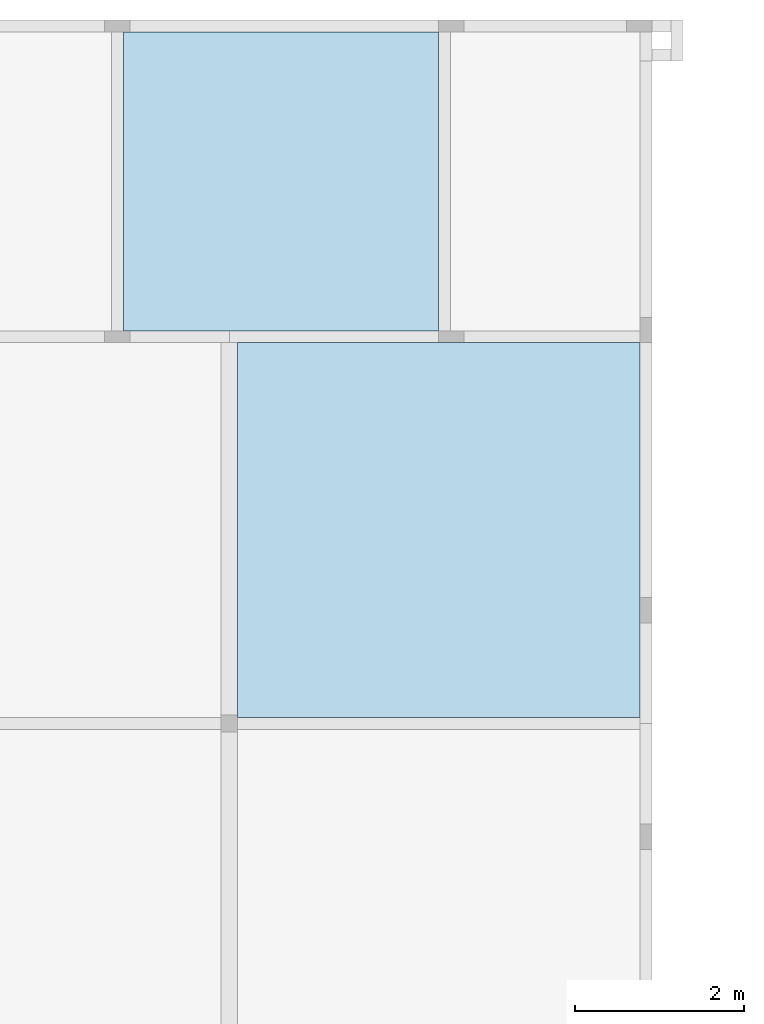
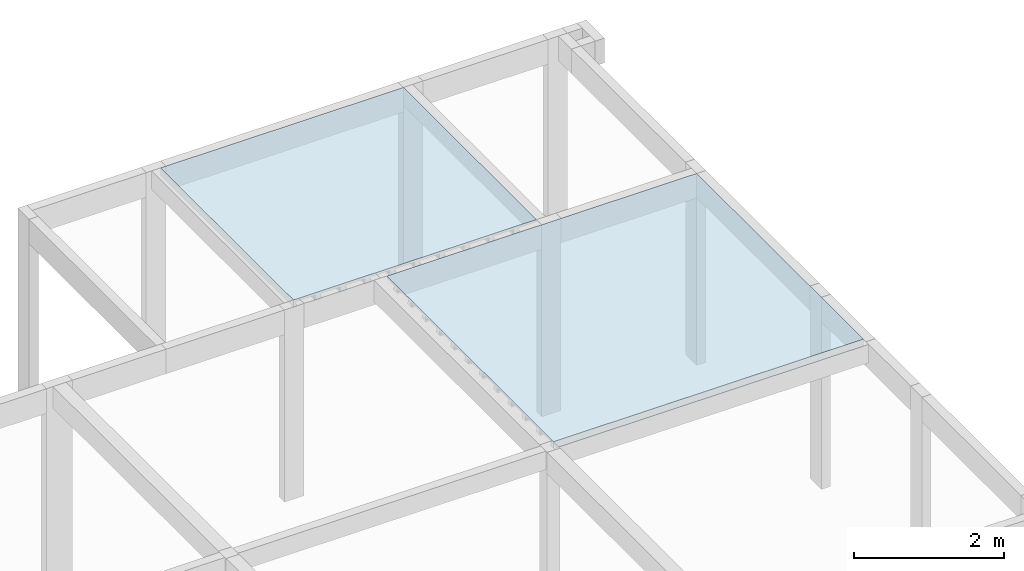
# One storey, part 6 of 7: 2 slabs.
"""IFC4 building model written with IfcOpenShell, lengths in centimetres."""

import ifcopenshell
import ifcopenshell.guid

model = None  # the IFC model being written
_history = None  # IfcOwnerHistory: only IFC2X3 demands one
_inside = {}  # id of a spatial element -> (the spatial element, [elements in it])
_under = {}  # id of a project, library or spatial element -> (it, [spatial elements below it])
_declared = {}  # id of a project -> (the project, [libraries it declares])
_typed = {}  # id of a type object -> (the type object, [elements of that type])
_made_of = {}  # id of a material, layer set ... -> (it, [elements and type objects made of it])


def new_model(schema):
    """Start an empty IFC model of exactly this schema.

    Asked for "IFC4X3", IfcOpenShell would pick the latest addendum, in which some entities
    have other attributes; the version numbers below select the first issue.
    IFC2X3 requires an IfcOwnerHistory on every rooted entity: one is made here for all.
    """
    global model, _history
    if schema == "IFC4X3":
        model = ifcopenshell.file(schema_version=(4, 3, 0, 0))
    else:
        model = ifcopenshell.file(schema=schema)
    _inside.clear()
    _under.clear()
    _declared.clear()
    _typed.clear()
    _made_of.clear()
    _history = None
    if model.schema == "IFC2X3":
        org = make("IfcOrganization", Name="unknown")
        user = make(
            "IfcPersonAndOrganization",
            ThePerson=make("IfcPerson", FamilyName="unknown"),
            TheOrganization=org,
        )
        app = make(
            "IfcApplication",
            ApplicationDeveloper=org,
            Version="unknown",
            ApplicationFullName="unknown",
            ApplicationIdentifier="unknown",
        )
        _history = make(
            "IfcOwnerHistory",
            OwningUser=user,
            OwningApplication=app,
            ChangeAction="ADDED",
            CreationDate=0,
        )
    return model


def make(cls, **values):
    """One entity of the class cls with the attributes given. An attribute that is None is left unset."""
    return model.create_entity(
        cls, **{name: value for name, value in values.items() if value is not None}
    )


def rooted(cls, **values):
    """An entity with a GlobalId (a new one), such as an element, a storey or a relation."""
    return make(cls, GlobalId=ifcopenshell.guid.new(), OwnerHistory=_history, **values)


def si_unit(unit_type, name, prefix=None):
    """IfcSIUnit, for example si_unit("LENGTHUNIT", "METRE", prefix="MILLI")."""
    return make("IfcSIUnit", UnitType=unit_type, Prefix=prefix, Name=name)


def derived_unit(unit_type, elements):
    """IfcDerivedUnit: a product of units, each with its exponent."""
    return make(
        "IfcDerivedUnit",
        Elements=[
            make("IfcDerivedUnitElement", Unit=unit, Exponent=power)
            for unit, power in elements
        ],
        UnitType=unit_type,
    )


def assignment(units):
    """IfcUnitAssignment: the units of a project."""
    return None if units is None else make("IfcUnitAssignment", Units=units)


def point(xyz):
    """IfcCartesianPoint."""
    return None if xyz is None else make("IfcCartesianPoint", Coordinates=xyz)


def direction(xyz):
    """IfcDirection."""
    return None if xyz is None else make("IfcDirection", DirectionRatios=xyz)


def frame(location, z_axis=None, x_axis=None):
    """IfcAxis2Placement3D, a coordinate frame: its origin and axes. An axis left out is left unset."""
    return make(
        "IfcAxis2Placement3D",
        Location=point(location),
        Axis=direction(z_axis),
        RefDirection=direction(x_axis),
    )


def origin_with_axes():
    """The frame at (0, 0, 0) with the z axis (0, 0, 1) and the x axis (1, 0, 0) written out."""
    return frame((0.0, 0.0, 0.0), z_axis=(0.0, 0.0, 1.0), x_axis=(1.0, 0.0, 0.0))


def place(relative_to, where):
    """IfcLocalPlacement: puts the frame where relative to a parent placement (None: the world)."""
    return make(
        "IfcLocalPlacement", PlacementRelTo=relative_to, RelativePlacement=where
    )


def context(
    kind, dimensions, precision=None, world=None, true_north=None, identifier=None
):
    """IfcGeometricRepresentationContext, for example the 3D "Model" context."""
    return make(
        "IfcGeometricRepresentationContext",
        ContextIdentifier=identifier,
        ContextType=kind,
        CoordinateSpaceDimension=dimensions,
        Precision=precision,
        WorldCoordinateSystem=world,
        TrueNorth=true_north,
    )


def project(units=None, contexts=None):
    """IfcProject with its units and contexts."""
    return rooted(
        "IfcProject",
        Name="project",
        RepresentationContexts=contexts,
        UnitsInContext=assignment(units),
    )


def spatial(cls, under=None, at=None, **own):
    """A site, building, storey or space (cls), placed at a placement, below another one or the project."""
    s = rooted(cls, ObjectPlacement=at, **own)
    if under is not None:
        _under.setdefault(under.id(), (under, []))[1].append(s)
    return s


def polyline(points):
    """IfcPolyline through the points."""
    return make("IfcPolyline", Points=[point(p) for p in points])


def outline(outer, holes=None, kind="AREA"):
    """IfcArbitraryClosedProfileDef: a profile drawn as a closed curve; with holes, ...WithVoids."""
    if holes is None:
        return make("IfcArbitraryClosedProfileDef", ProfileType=kind, OuterCurve=outer)
    return make(
        "IfcArbitraryProfileDefWithVoids",
        ProfileType=kind,
        OuterCurve=outer,
        InnerCurves=holes,
    )


def extrude(swept, where, along, depth):
    """IfcExtrudedAreaSolid: the profile swept, set in the frame where, extruded along a direction by depth."""
    return make(
        "IfcExtrudedAreaSolid",
        SweptArea=swept,
        Position=where,
        ExtrudedDirection=direction(along),
        Depth=depth,
    )


def faces_of(points, faces, orient=None, outer=None):
    """IfcFace entities. A face is a list of loops; a loop is a list of indices into points, from 0.

    orient and outer hold one flag for each loop. By default every Orientation is true, the
    first loop of a face is its IfcFaceOuterBound and the others are IfcFaceBound.
    """
    made = []
    for i, loops in enumerate(faces):
        bounds = []
        for j, loop in enumerate(loops):
            is_outer = j == 0 if outer is None else outer[i][j]
            bounds.append(
                make(
                    "IfcFaceOuterBound" if is_outer else "IfcFaceBound",
                    Bound=make("IfcPolyLoop", Polygon=[points[k] for k in loop]),
                    Orientation=True if orient is None else orient[i][j],
                )
            )
        made.append(make("IfcFace", Bounds=bounds))
    return made


def faceted_brep(points, faces, orient=None, outer=None, voids=None):
    """IfcFacetedBrep: a solid bounded by flat faces; with voids (closed shells), ...WithVoids."""
    shared = [point(p) for p in points]
    hull = make("IfcClosedShell", CfsFaces=faces_of(shared, faces, orient, outer))
    if voids is None:
        return make("IfcFacetedBrep", Outer=hull)
    return make(
        "IfcFacetedBrepWithVoids",
        Outer=hull,
        Voids=[
            make(cls, CfsFaces=faces_of(shared, fs, o, b)) for cls, fs, o, b in voids
        ],
    )


def shape(context_of_items, identifier, shape_type, items):
    """IfcShapeRepresentation: the items that make up one representation, for example the "Body"."""
    return make(
        "IfcShapeRepresentation",
        ContextOfItems=context_of_items,
        RepresentationIdentifier=identifier,
        RepresentationType=shape_type,
        Items=items,
    )


def material(Name=None, Category=None):
    """IfcMaterial."""
    return make("IfcMaterial", Name=Name, Category=Category)


def made_of(thing, what):
    """Note that an element or type object is made of a material, layer set ...; save() writes the relation."""
    if what is not None:
        _made_of.setdefault(what.id(), (what, []))[1].append(thing)
    return thing


def element(
    cls,
    number,
    at=None,
    inside=None,
    cuts=None,
    type_object=None,
    material=None,
    context=None,
    identifier="Body",
    shape_type=None,
    held_by="IfcProductDefinitionShape",
    body=None,
    shapes=None,
    **own,
):
    """One element of the class cls, such as IfcWall. Its Tag is "e" and its number.

    at: its placement. inside: the storey or other place that contains it. cuts: it is an
    opening in that element (IfcRelVoidsElement). A single representation is given by context,
    identifier, shape_type and body (its items); several are given by shapes. held_by: the class
    of the entity that holds the representations. save() writes the other relations.
    """
    e = rooted(cls, Tag="e%d" % number, ObjectPlacement=at, **own)
    if body is not None:
        shapes = [shape(context, identifier, shape_type, body)]
    if shapes is not None:
        e.Representation = make(held_by, Representations=shapes)
    if inside is not None:
        _inside.setdefault(inside.id(), (inside, []))[1].append(e)
    if cuts is not None:
        rooted(
            "IfcRelVoidsElement", RelatingBuildingElement=cuts, RelatedOpeningElement=e
        )
    if type_object is not None:
        _typed.setdefault(type_object.id(), (type_object, []))[1].append(e)
    return made_of(e, material)


def aggregate(whole, parts):
    """IfcRelAggregates: a whole, such as a stair, and the parts it consists of."""
    return rooted("IfcRelAggregates", RelatingObject=whole, RelatedObjects=parts)


def save(model, path):
    """Write the relations noted so far, then the file.

    IfcRelAggregates (storeys below a building ...), IfcRelContainedInSpatialStructure (elements
    in a storey), IfcRelDefinesByType, IfcRelAssociatesMaterial and IfcRelDeclares: one each for
    every whole, place, type object, material and project.
    """
    for whole, parts in _under.values():
        aggregate(whole, parts)
    for where, things in _inside.values():
        rooted(
            "IfcRelContainedInSpatialStructure",
            RelatedElements=things,
            RelatingStructure=where,
        )
    for kind, things in _typed.values():
        rooted("IfcRelDefinesByType", RelatedObjects=things, RelatingType=kind)
    for what, things in _made_of.values():
        rooted("IfcRelAssociatesMaterial", RelatedObjects=things, RelatingMaterial=what)
    for by, libraries in _declared.values():
        rooted("IfcRelDeclares", RelatingContext=by, RelatedDefinitions=libraries)
    model.write(path)


model = new_model("IFC4")

# Units and contexts
model_context = context("Model", 3, precision=1e-05, world=origin_with_axes(), identifier="Body")
ifc_project = project(units=[si_unit("LENGTHUNIT", "METRE", prefix="CENTI"), si_unit("VOLUMEUNIT", "CUBIC_METRE"), si_unit("AREAUNIT", "SQUARE_METRE"), si_unit("POWERUNIT", "WATT"), si_unit("LUMINOUSFLUXUNIT", "LUMEN"), si_unit("ELECTRICCURRENTUNIT", "AMPERE"), si_unit("PRESSUREUNIT", "PASCAL", prefix="KILO"), si_unit("MASSUNIT", "GRAM", prefix="KILO"), si_unit("PLANEANGLEUNIT", "RADIAN"), derived_unit("VOLUMETRICFLOWRATEUNIT", [(si_unit("LENGTHUNIT", "METRE"), 3), (si_unit("TIMEUNIT", "SECOND"), -1)])], contexts=[model_context])

# Site, building, storey
site_placement = place(None, origin_with_axes())
site = spatial("IfcSite", under=ifc_project, at=site_placement)
building_placement = place(site_placement, frame((0.0, 0.0, 24.0)))
building = spatial("IfcBuilding", under=site, at=building_placement)
storey_placement = place(building_placement, frame((0.0, 0.0, 312.0), z_axis=(0.0, 0.0, 1.0), x_axis=(1.0, 0.0, 0.0)))
storey = spatial("IfcBuildingStorey", under=building, at=storey_placement, Name="RESPALDO", CompositionType="ELEMENT", Elevation=336.0)

# Slabs
ifc_material = material(Name="Concreto")
slab_1_placement = place(storey_placement, frame((1072.8, 1379.26, 0.0), z_axis=(0.0, 0.0, 1.0), x_axis=(1.0, 0.0, 0.0)))
element("IfcSlab", 1, at=slab_1_placement, inside=storey, material=ifc_material, Name="L2", PredefinedType="FLOOR", context=model_context, shape_type="SolidModel", body=[
    extrude(outline(polyline([(186.42, 176.74), (-186.42, 176.74), (-186.419, -176.74), (186.42, -176.74), (186.42, 176.74), (186.42, 176.74)])), frame((0.0, 0.0, -4.0), z_axis=(0.0, 0.0, 1.0), x_axis=(1.0, 0.0, 0.0)), (0.0, 0.0, 1.0), 4.0),
    faceted_brep([(-186.4195, -176.74, -12.0), (-186.4195, 176.74, -12.0), (-182.42, 176.74, -12.0), (-182.42, -176.74, -12.0), (-182.42, -176.74, -4.0), (-182.42, 176.74, -4.0), (-186.4195, 176.74, -4.0), (-186.4195, -176.74, -4.0)], [[[0, 1, 2, 3]], [[4, 5, 6, 7]], [[4, 3, 5]], [[3, 2, 5]], [[5, 2, 6]], [[2, 1, 6]], [[6, 1, 7]], [[1, 0, 7]], [[7, 0, 4]], [[0, 3, 4]]]),
    faceted_brep([(-182.42, -176.74, -12.0), (-182.42, 176.74, -12.0), (-180.92, 176.74, -12.0), (-180.92, -176.74, -12.0), (-180.92, -176.74, -9.0), (-180.92, 176.74, -9.0), (-182.42, 176.74, -9.0), (-182.42, -176.74, -9.0)], [[[0, 1, 2, 3]], [[4, 5, 6, 7]], [[4, 3, 5]], [[3, 2, 5]], [[5, 2, 6]], [[2, 1, 6]], [[6, 1, 7]], [[1, 0, 7]], [[7, 0, 4]], [[0, 3, 4]]]),
    faceted_brep([(-152.42, -176.74, -12.0), (-152.42, 176.74, -12.0), (-144.42, 176.74, -12.0), (-144.42, -176.74, -12.0), (-144.42, -176.74, -4.0), (-144.42, 176.74, -4.0), (-152.42, 176.74, -4.0), (-152.42, -176.74, -4.0)], [[[0, 1, 2, 3]], [[4, 5, 6, 7]], [[4, 3, 5]], [[3, 2, 5]], [[5, 2, 6]], [[2, 1, 6]], [[6, 1, 7]], [[1, 0, 7]], [[7, 0, 4]], [[0, 3, 4]]]),
    faceted_brep([(-153.92, -176.74, -12.0), (-153.92, 176.74, -12.0), (-152.42, 176.74, -12.0), (-152.42, -176.74, -12.0), (-152.42, -176.74, -9.0), (-152.42, 176.74, -9.0), (-153.92, 176.74, -9.0), (-153.92, -176.74, -9.0)], [[[0, 1, 2, 3]], [[4, 5, 6, 7]], [[4, 3, 5]], [[3, 2, 5]], [[5, 2, 6]], [[2, 1, 6]], [[6, 1, 7]], [[1, 0, 7]], [[7, 0, 4]], [[0, 3, 4]]]),
    faceted_brep([(-144.42, -176.74, -12.0), (-144.42, 176.74, -12.0), (-142.92, 176.74, -12.0), (-142.92, -176.74, -12.0), (-142.92, -176.74, -9.0), (-142.92, 176.74, -9.0), (-144.42, 176.74, -9.0), (-144.42, -176.74, -9.0)], [[[0, 1, 2, 3]], [[4, 5, 6, 7]], [[4, 3, 5]], [[3, 2, 5]], [[5, 2, 6]], [[2, 1, 6]], [[6, 1, 7]], [[1, 0, 7]], [[7, 0, 4]], [[0, 3, 4]]]),
    faceted_brep([(-114.42, -176.74, -12.0), (-114.42, 176.74, -12.0), (-106.42, 176.74, -12.0), (-106.42, -176.74, -12.0), (-106.42, -176.74, -4.0), (-106.42, 176.74, -4.0), (-114.42, 176.74, -4.0), (-114.42, -176.74, -4.0)], [[[0, 1, 2, 3]], [[4, 5, 6, 7]], [[4, 3, 5]], [[3, 2, 5]], [[5, 2, 6]], [[2, 1, 6]], [[6, 1, 7]], [[1, 0, 7]], [[7, 0, 4]], [[0, 3, 4]]]),
    faceted_brep([(-115.92, -176.74, -12.0), (-115.92, 176.74, -12.0), (-114.42, 176.74, -12.0), (-114.42, -176.74, -12.0), (-114.42, -176.74, -9.0), (-114.42, 176.74, -9.0), (-115.92, 176.74, -9.0), (-115.92, -176.74, -9.0)], [[[0, 1, 2, 3]], [[4, 5, 6, 7]], [[4, 3, 5]], [[3, 2, 5]], [[5, 2, 6]], [[2, 1, 6]], [[6, 1, 7]], [[1, 0, 7]], [[7, 0, 4]], [[0, 3, 4]]]),
    faceted_brep([(-106.42, -176.74, -12.0), (-106.42, 176.74, -12.0), (-104.92, 176.74, -12.0), (-104.92, -176.74, -12.0), (-104.92, -176.74, -9.0), (-104.92, 176.74, -9.0), (-106.42, 176.74, -9.0), (-106.42, -176.74, -9.0)], [[[0, 1, 2, 3]], [[4, 5, 6, 7]], [[4, 3, 5]], [[3, 2, 5]], [[5, 2, 6]], [[2, 1, 6]], [[6, 1, 7]], [[1, 0, 7]], [[7, 0, 4]], [[0, 3, 4]]]),
    faceted_brep([(-76.42, -176.74, -12.0), (-76.42, 176.74, -12.0), (-68.42, 176.74, -12.0), (-68.42, -176.74, -12.0), (-68.42, -176.74, -4.0), (-68.42, 176.74, -4.0), (-76.42, 176.74, -4.0), (-76.42, -176.74, -4.0)], [[[0, 1, 2, 3]], [[4, 5, 6, 7]], [[4, 3, 5]], [[3, 2, 5]], [[5, 2, 6]], [[2, 1, 6]], [[6, 1, 7]], [[1, 0, 7]], [[7, 0, 4]], [[0, 3, 4]]]),
    faceted_brep([(-77.92, -176.74, -12.0), (-77.92, 176.74, -12.0), (-76.42, 176.74, -12.0), (-76.42, -176.74, -12.0), (-76.42, -176.74, -9.0), (-76.42, 176.74, -9.0), (-77.92, 176.74, -9.0), (-77.92, -176.74, -9.0)], [[[0, 1, 2, 3]], [[4, 5, 6, 7]], [[4, 3, 5]], [[3, 2, 5]], [[5, 2, 6]], [[2, 1, 6]], [[6, 1, 7]], [[1, 0, 7]], [[7, 0, 4]], [[0, 3, 4]]]),
    faceted_brep([(-68.42, -176.74, -12.0), (-68.42, 176.74, -12.0), (-66.92, 176.74, -12.0), (-66.92, -176.74, -12.0), (-66.92, -176.74, -9.0), (-66.92, 176.74, -9.0), (-68.42, 176.74, -9.0), (-68.42, -176.74, -9.0)], [[[0, 1, 2, 3]], [[4, 5, 6, 7]], [[4, 3, 5]], [[3, 2, 5]], [[5, 2, 6]], [[2, 1, 6]], [[6, 1, 7]], [[1, 0, 7]], [[7, 0, 4]], [[0, 3, 4]]]),
    faceted_brep([(-38.42, -176.74, -12.0), (-38.42, 176.74, -12.0), (-30.42, 176.74, -12.0), (-30.42, -176.74, -12.0), (-30.42, -176.74, -4.0), (-30.42, 176.74, -4.0), (-38.42, 176.74, -4.0), (-38.42, -176.74, -4.0)], [[[0, 1, 2, 3]], [[4, 5, 6, 7]], [[4, 3, 5]], [[3, 2, 5]], [[5, 2, 6]], [[2, 1, 6]], [[6, 1, 7]], [[1, 0, 7]], [[7, 0, 4]], [[0, 3, 4]]]),
    faceted_brep([(-39.92, -176.74, -12.0), (-39.92, 176.74, -12.0), (-38.42, 176.74, -12.0), (-38.42, -176.74, -12.0), (-38.42, -176.74, -9.0), (-38.42, 176.74, -9.0), (-39.92, 176.74, -9.0), (-39.92, -176.74, -9.0)], [[[0, 1, 2, 3]], [[4, 5, 6, 7]], [[4, 3, 5]], [[3, 2, 5]], [[5, 2, 6]], [[2, 1, 6]], [[6, 1, 7]], [[1, 0, 7]], [[7, 0, 4]], [[0, 3, 4]]]),
    faceted_brep([(-30.42, -176.74, -12.0), (-30.42, 176.74, -12.0), (-28.92, 176.74, -12.0), (-28.92, -176.74, -12.0), (-28.92, -176.74, -9.0), (-28.92, 176.74, -9.0), (-30.42, 176.74, -9.0), (-30.42, -176.74, -9.0)], [[[0, 1, 2, 3]], [[4, 5, 6, 7]], [[4, 3, 5]], [[3, 2, 5]], [[5, 2, 6]], [[2, 1, 6]], [[6, 1, 7]], [[1, 0, 7]], [[7, 0, 4]], [[0, 3, 4]]]),
    faceted_brep([(-0.42, -176.74, -12.0), (-0.42, 176.74, -12.0), (7.58, 176.74, -12.0), (7.58, -176.74, -12.0), (7.58, -176.74, -4.0), (7.58, 176.74, -4.0), (-0.42, 176.74, -4.0), (-0.42, -176.74, -4.0)], [[[0, 1, 2, 3]], [[4, 5, 6, 7]], [[4, 3, 5]], [[3, 2, 5]], [[5, 2, 6]], [[2, 1, 6]], [[6, 1, 7]], [[1, 0, 7]], [[7, 0, 4]], [[0, 3, 4]]]),
    faceted_brep([(-1.92, -176.74, -12.0), (-1.92, 176.74, -12.0), (-0.42, 176.74, -12.0), (-0.42, -176.74, -12.0), (-0.42, -176.74, -9.0), (-0.42, 176.74, -9.0), (-1.92, 176.74, -9.0), (-1.92, -176.74, -9.0)], [[[0, 1, 2, 3]], [[4, 5, 6, 7]], [[4, 3, 5]], [[3, 2, 5]], [[5, 2, 6]], [[2, 1, 6]], [[6, 1, 7]], [[1, 0, 7]], [[7, 0, 4]], [[0, 3, 4]]]),
    faceted_brep([(7.58, -176.74, -12.0), (7.58, 176.74, -12.0), (9.08, 176.74, -12.0), (9.08, -176.74, -12.0), (9.08, -176.74, -9.0), (9.08, 176.74, -9.0), (7.58, 176.74, -9.0), (7.58, -176.74, -9.0)], [[[0, 1, 2, 3]], [[4, 5, 6, 7]], [[4, 3, 5]], [[3, 2, 5]], [[5, 2, 6]], [[2, 1, 6]], [[6, 1, 7]], [[1, 0, 7]], [[7, 0, 4]], [[0, 3, 4]]]),
    faceted_brep([(37.58, -176.74, -12.0), (37.58, 176.74, -12.0), (45.58, 176.74, -12.0), (45.58, -176.74, -12.0), (45.58, -176.74, -4.0), (45.58, 176.74, -4.0), (37.58, 176.74, -4.0), (37.58, -176.74, -4.0)], [[[0, 1, 2, 3]], [[4, 5, 6, 7]], [[4, 3, 5]], [[3, 2, 5]], [[5, 2, 6]], [[2, 1, 6]], [[6, 1, 7]], [[1, 0, 7]], [[7, 0, 4]], [[0, 3, 4]]]),
    faceted_brep([(36.08, -176.74, -12.0), (36.08, 176.74, -12.0), (37.58, 176.74, -12.0), (37.58, -176.74, -12.0), (37.58, -176.74, -9.0), (37.58, 176.74, -9.0), (36.08, 176.74, -9.0), (36.08, -176.74, -9.0)], [[[0, 1, 2, 3]], [[4, 5, 6, 7]], [[4, 3, 5]], [[3, 2, 5]], [[5, 2, 6]], [[2, 1, 6]], [[6, 1, 7]], [[1, 0, 7]], [[7, 0, 4]], [[0, 3, 4]]]),
    faceted_brep([(45.58, -176.74, -12.0), (45.58, 176.74, -12.0), (47.08, 176.74, -12.0), (47.08, -176.74, -12.0), (47.08, -176.74, -9.0), (47.08, 176.74, -9.0), (45.58, 176.74, -9.0), (45.58, -176.74, -9.0)], [[[0, 1, 2, 3]], [[4, 5, 6, 7]], [[4, 3, 5]], [[3, 2, 5]], [[5, 2, 6]], [[2, 1, 6]], [[6, 1, 7]], [[1, 0, 7]], [[7, 0, 4]], [[0, 3, 4]]]),
    faceted_brep([(75.58, -176.74, -12.0), (75.58, 176.74, -12.0), (83.58, 176.74, -12.0), (83.58, -176.74, -12.0), (83.58, -176.74, -4.0), (83.58, 176.74, -4.0), (75.58, 176.74, -4.0), (75.58, -176.74, -4.0)], [[[0, 1, 2, 3]], [[4, 5, 6, 7]], [[4, 3, 5]], [[3, 2, 5]], [[5, 2, 6]], [[2, 1, 6]], [[6, 1, 7]], [[1, 0, 7]], [[7, 0, 4]], [[0, 3, 4]]]),
    faceted_brep([(74.08, -176.74, -12.0), (74.08, 176.74, -12.0), (75.58, 176.74, -12.0), (75.58, -176.74, -12.0), (75.58, -176.74, -9.0), (75.58, 176.74, -9.0), (74.08, 176.74, -9.0), (74.08, -176.74, -9.0)], [[[0, 1, 2, 3]], [[4, 5, 6, 7]], [[4, 3, 5]], [[3, 2, 5]], [[5, 2, 6]], [[2, 1, 6]], [[6, 1, 7]], [[1, 0, 7]], [[7, 0, 4]], [[0, 3, 4]]]),
    faceted_brep([(83.58, -176.74, -12.0), (83.58, 176.74, -12.0), (85.08, 176.74, -12.0), (85.08, -176.74, -12.0), (85.08, -176.74, -9.0), (85.08, 176.74, -9.0), (83.58, 176.74, -9.0), (83.58, -176.74, -9.0)], [[[0, 1, 2, 3]], [[4, 5, 6, 7]], [[4, 3, 5]], [[3, 2, 5]], [[5, 2, 6]], [[2, 1, 6]], [[6, 1, 7]], [[1, 0, 7]], [[7, 0, 4]], [[0, 3, 4]]]),
    faceted_brep([(113.58, -176.74, -12.0), (113.58, 176.74, -12.0), (121.58, 176.74, -12.0), (121.58, -176.74, -12.0), (121.58, -176.74, -4.0), (121.58, 176.74, -4.0), (113.58, 176.74, -4.0), (113.58, -176.74, -4.0)], [[[0, 1, 2, 3]], [[4, 5, 6, 7]], [[4, 3, 5]], [[3, 2, 5]], [[5, 2, 6]], [[2, 1, 6]], [[6, 1, 7]], [[1, 0, 7]], [[7, 0, 4]], [[0, 3, 4]]]),
    faceted_brep([(112.08, -176.74, -12.0), (112.08, 176.74, -12.0), (113.58, 176.74, -12.0), (113.58, -176.74, -12.0), (113.58, -176.74, -9.0), (113.58, 176.74, -9.0), (112.08, 176.74, -9.0), (112.08, -176.74, -9.0)], [[[0, 1, 2, 3]], [[4, 5, 6, 7]], [[4, 3, 5]], [[3, 2, 5]], [[5, 2, 6]], [[2, 1, 6]], [[6, 1, 7]], [[1, 0, 7]], [[7, 0, 4]], [[0, 3, 4]]]),
    faceted_brep([(121.58, -176.74, -12.0), (121.58, 176.74, -12.0), (123.08, 176.74, -12.0), (123.08, -176.74, -12.0), (123.08, -176.74, -9.0), (123.08, 176.74, -9.0), (121.58, 176.74, -9.0), (121.58, -176.74, -9.0)], [[[0, 1, 2, 3]], [[4, 5, 6, 7]], [[4, 3, 5]], [[3, 2, 5]], [[5, 2, 6]], [[2, 1, 6]], [[6, 1, 7]], [[1, 0, 7]], [[7, 0, 4]], [[0, 3, 4]]]),
    faceted_brep([(151.58, -176.74, -12.0), (151.58, 176.74, -12.0), (159.58, 176.74, -12.0), (159.58, -176.74, -12.0), (159.58, -176.74, -4.0), (159.58, 176.74, -4.0), (151.58, 176.74, -4.0), (151.58, -176.74, -4.0)], [[[0, 1, 2, 3]], [[4, 5, 6, 7]], [[4, 3, 5]], [[3, 2, 5]], [[5, 2, 6]], [[2, 1, 6]], [[6, 1, 7]], [[1, 0, 7]], [[7, 0, 4]], [[0, 3, 4]]]),
    faceted_brep([(150.08, -176.74, -12.0), (150.08, 176.74, -12.0), (151.58, 176.74, -12.0), (151.58, -176.74, -12.0), (151.58, -176.74, -9.0), (151.58, 176.74, -9.0), (150.08, 176.74, -9.0), (150.08, -176.74, -9.0)], [[[0, 1, 2, 3]], [[4, 5, 6, 7]], [[4, 3, 5]], [[3, 2, 5]], [[5, 2, 6]], [[2, 1, 6]], [[6, 1, 7]], [[1, 0, 7]], [[7, 0, 4]], [[0, 3, 4]]]),
    faceted_brep([(159.58, -176.74, -12.0), (159.58, 176.74, -12.0), (161.08, 176.74, -12.0), (161.08, -176.74, -12.0), (161.08, -176.74, -9.0), (161.08, 176.74, -9.0), (159.58, 176.74, -9.0), (159.58, -176.74, -9.0)], [[[0, 1, 2, 3]], [[4, 5, 6, 7]], [[4, 3, 5]], [[3, 2, 5]], [[5, 2, 6]], [[2, 1, 6]], [[6, 1, 7]], [[1, 0, 7]], [[7, 0, 4]], [[0, 3, 4]]]),
])
slab_2_placement = place(storey_placement, frame((1259.41, 966.89, 0.0), z_axis=(0.0, 0.0, 1.0), x_axis=(1.0, 0.0, 0.0)))
element("IfcSlab", 2, at=slab_2_placement, inside=storey, material=ifc_material, Name="L6", PredefinedType="FLOOR", context=model_context, shape_type="SolidModel", body=[
    extrude(outline(polyline([(237.78, -109.87), (237.77, 221.629), (-237.779, 221.63), (-237.78, -221.63), (237.77, -221.63), (237.78, -109.87), (237.78, -109.87)])), frame((0.0, 0.0, -4.0), z_axis=(0.0, 0.0, 1.0), x_axis=(1.0, 0.0, 0.0)), (0.0, 0.0, 1.0), 4.0),
    faceted_brep([(-237.7795, -214.63, -12.0), (237.77, -214.63, -12.0), (237.77, -221.63, -12.0), (-237.7795, -221.63, -12.0), (-237.7795, -221.63, -4.0), (237.77, -221.63, -4.0), (237.77, -214.63, -4.0), (-237.7795, -214.63, -4.0)], [[[0, 1, 2, 3]], [[4, 5, 6, 7]], [[4, 3, 5]], [[3, 2, 5]], [[5, 2, 6]], [[2, 1, 6]], [[6, 1, 7]], [[1, 0, 7]], [[7, 0, 4]], [[0, 3, 4]]]),
    faceted_brep([(-237.7795, -213.13, -12.0), (237.77, -213.13, -12.0), (237.77, -214.63, -12.0), (-237.7795, -214.63, -12.0), (-237.7795, -214.63, -9.0), (237.77, -214.63, -9.0), (237.77, -213.13, -9.0), (-237.7795, -213.13, -9.0)], [[[0, 1, 2, 3]], [[4, 5, 6, 7]], [[4, 3, 5]], [[3, 2, 5]], [[5, 2, 6]], [[2, 1, 6]], [[6, 1, 7]], [[1, 0, 7]], [[7, 0, 4]], [[0, 3, 4]]]),
    faceted_brep([(-237.7795, -176.63, -12.0), (237.77, -176.63, -12.0), (237.77, -184.63, -12.0), (-237.7795, -184.63, -12.0), (-237.7795, -184.63, -4.0), (237.77, -184.63, -4.0), (237.77, -176.63, -4.0), (-237.7795, -176.63, -4.0)], [[[0, 1, 2, 3]], [[4, 5, 6, 7]], [[4, 3, 5]], [[3, 2, 5]], [[5, 2, 6]], [[2, 1, 6]], [[6, 1, 7]], [[1, 0, 7]], [[7, 0, 4]], [[0, 3, 4]]]),
    faceted_brep([(-237.7795, -175.13, -12.0), (237.77, -175.13, -12.0), (237.77, -176.63, -12.0), (-237.7795, -176.63, -12.0), (-237.7795, -176.63, -9.0), (237.77, -176.63, -9.0), (237.77, -175.13, -9.0), (-237.7795, -175.13, -9.0)], [[[0, 1, 2, 3]], [[4, 5, 6, 7]], [[4, 3, 5]], [[3, 2, 5]], [[5, 2, 6]], [[2, 1, 6]], [[6, 1, 7]], [[1, 0, 7]], [[7, 0, 4]], [[0, 3, 4]]]),
    faceted_brep([(-237.7795, -184.63, -12.0), (237.77, -184.63, -12.0), (237.77, -186.13, -12.0), (-237.7795, -186.13, -12.0), (-237.7795, -186.13, -9.0), (237.77, -186.13, -9.0), (237.77, -184.63, -9.0), (-237.7795, -184.63, -9.0)], [[[0, 1, 2, 3]], [[4, 5, 6, 7]], [[4, 3, 5]], [[3, 2, 5]], [[5, 2, 6]], [[2, 1, 6]], [[6, 1, 7]], [[1, 0, 7]], [[7, 0, 4]], [[0, 3, 4]]]),
    faceted_brep([(-237.7795, -138.63, -12.0), (237.77, -138.63, -12.0), (237.77, -146.63, -12.0), (-237.7795, -146.63, -12.0), (-237.7795, -146.63, -4.0), (237.77, -146.63, -4.0), (237.77, -138.63, -4.0), (-237.7795, -138.63, -4.0)], [[[0, 1, 2, 3]], [[4, 5, 6, 7]], [[4, 3, 5]], [[3, 2, 5]], [[5, 2, 6]], [[2, 1, 6]], [[6, 1, 7]], [[1, 0, 7]], [[7, 0, 4]], [[0, 3, 4]]]),
    faceted_brep([(-237.7795, -137.13, -12.0), (237.77, -137.13, -12.0), (237.77, -138.63, -12.0), (-237.7795, -138.63, -12.0), (-237.7795, -138.63, -9.0), (237.77, -138.63, -9.0), (237.77, -137.13, -9.0), (-237.7795, -137.13, -9.0)], [[[0, 1, 2, 3]], [[4, 5, 6, 7]], [[4, 3, 5]], [[3, 2, 5]], [[5, 2, 6]], [[2, 1, 6]], [[6, 1, 7]], [[1, 0, 7]], [[7, 0, 4]], [[0, 3, 4]]]),
    faceted_brep([(-237.7795, -146.63, -12.0), (237.77, -146.63, -12.0), (237.77, -148.13, -12.0), (-237.7795, -148.13, -12.0), (-237.7795, -148.13, -9.0), (237.77, -148.13, -9.0), (237.77, -146.63, -9.0), (-237.7795, -146.63, -9.0)], [[[0, 1, 2, 3]], [[4, 5, 6, 7]], [[4, 3, 5]], [[3, 2, 5]], [[5, 2, 6]], [[2, 1, 6]], [[6, 1, 7]], [[1, 0, 7]], [[7, 0, 4]], [[0, 3, 4]]]),
    faceted_brep([(-237.7795, -100.63, -12.0), (237.77, -100.63, -12.0), (237.77, -108.63, -12.0), (-237.7795, -108.63, -12.0), (-237.7795, -108.63, -4.0), (237.77, -108.63, -4.0), (237.77, -100.63, -4.0), (-237.7795, -100.63, -4.0)], [[[0, 1, 2, 3]], [[4, 5, 6, 7]], [[4, 3, 5]], [[3, 2, 5]], [[5, 2, 6]], [[2, 1, 6]], [[6, 1, 7]], [[1, 0, 7]], [[7, 0, 4]], [[0, 3, 4]]]),
    faceted_brep([(-237.7795, -99.13, -12.0), (237.77, -99.13, -12.0), (237.77, -100.63, -12.0), (-237.7795, -100.63, -12.0), (-237.7795, -100.63, -9.0), (237.77, -100.63, -9.0), (237.77, -99.13, -9.0), (-237.7795, -99.13, -9.0)], [[[0, 1, 2, 3]], [[4, 5, 6, 7]], [[4, 3, 5]], [[3, 2, 5]], [[5, 2, 6]], [[2, 1, 6]], [[6, 1, 7]], [[1, 0, 7]], [[7, 0, 4]], [[0, 3, 4]]]),
    faceted_brep([(-237.7795, -108.63, -12.0), (237.77, -108.63, -12.0), (237.77, -110.13, -12.0), (-237.7795, -110.13, -12.0), (-237.7795, -110.13, -9.0), (237.77, -110.13, -9.0), (237.77, -108.63, -9.0), (-237.7795, -108.63, -9.0)], [[[0, 1, 2, 3]], [[4, 5, 6, 7]], [[4, 3, 5]], [[3, 2, 5]], [[5, 2, 6]], [[2, 1, 6]], [[6, 1, 7]], [[1, 0, 7]], [[7, 0, 4]], [[0, 3, 4]]]),
    faceted_brep([(-237.7795, -62.63, -12.0), (237.77, -62.63, -12.0), (237.77, -70.63, -12.0), (-237.7795, -70.63, -12.0), (-237.7795, -70.63, -4.0), (237.77, -70.63, -4.0), (237.77, -62.63, -4.0), (-237.7795, -62.63, -4.0)], [[[0, 1, 2, 3]], [[4, 5, 6, 7]], [[4, 3, 5]], [[3, 2, 5]], [[5, 2, 6]], [[2, 1, 6]], [[6, 1, 7]], [[1, 0, 7]], [[7, 0, 4]], [[0, 3, 4]]]),
    faceted_brep([(-237.7795, -61.13, -12.0), (237.77, -61.13, -12.0), (237.77, -62.63, -12.0), (-237.7795, -62.63, -12.0), (-237.7795, -62.63, -9.0), (237.77, -62.63, -9.0), (237.77, -61.13, -9.0), (-237.7795, -61.13, -9.0)], [[[0, 1, 2, 3]], [[4, 5, 6, 7]], [[4, 3, 5]], [[3, 2, 5]], [[5, 2, 6]], [[2, 1, 6]], [[6, 1, 7]], [[1, 0, 7]], [[7, 0, 4]], [[0, 3, 4]]]),
    faceted_brep([(-237.7795, -70.63, -12.0), (237.77, -70.63, -12.0), (237.77, -72.13, -12.0), (-237.7795, -72.13, -12.0), (-237.7795, -72.13, -9.0), (237.77, -72.13, -9.0), (237.77, -70.63, -9.0), (-237.7795, -70.63, -9.0)], [[[0, 1, 2, 3]], [[4, 5, 6, 7]], [[4, 3, 5]], [[3, 2, 5]], [[5, 2, 6]], [[2, 1, 6]], [[6, 1, 7]], [[1, 0, 7]], [[7, 0, 4]], [[0, 3, 4]]]),
    faceted_brep([(-237.7795, -24.63, -12.0), (237.77, -24.63, -12.0), (237.77, -32.63, -12.0), (-237.7795, -32.63, -12.0), (-237.7795, -32.63, -4.0), (237.77, -32.63, -4.0), (237.77, -24.63, -4.0), (-237.7795, -24.63, -4.0)], [[[0, 1, 2, 3]], [[4, 5, 6, 7]], [[4, 3, 5]], [[3, 2, 5]], [[5, 2, 6]], [[2, 1, 6]], [[6, 1, 7]], [[1, 0, 7]], [[7, 0, 4]], [[0, 3, 4]]]),
    faceted_brep([(-237.7795, -23.13, -12.0), (237.77, -23.13, -12.0), (237.77, -24.63, -12.0), (-237.7795, -24.63, -12.0), (-237.7795, -24.63, -9.0), (237.77, -24.63, -9.0), (237.77, -23.13, -9.0), (-237.7795, -23.13, -9.0)], [[[0, 1, 2, 3]], [[4, 5, 6, 7]], [[4, 3, 5]], [[3, 2, 5]], [[5, 2, 6]], [[2, 1, 6]], [[6, 1, 7]], [[1, 0, 7]], [[7, 0, 4]], [[0, 3, 4]]]),
    faceted_brep([(-237.7795, -32.63, -12.0), (237.77, -32.63, -12.0), (237.77, -34.13, -12.0), (-237.7795, -34.13, -12.0), (-237.7795, -34.13, -9.0), (237.77, -34.13, -9.0), (237.77, -32.63, -9.0), (-237.7795, -32.63, -9.0)], [[[0, 1, 2, 3]], [[4, 5, 6, 7]], [[4, 3, 5]], [[3, 2, 5]], [[5, 2, 6]], [[2, 1, 6]], [[6, 1, 7]], [[1, 0, 7]], [[7, 0, 4]], [[0, 3, 4]]]),
    faceted_brep([(-237.7795, 13.37, -12.0), (237.77, 13.37, -12.0), (237.77, 5.37, -12.0), (-237.7795, 5.37, -12.0), (-237.7795, 5.37, -4.0), (237.77, 5.37, -4.0), (237.77, 13.37, -4.0), (-237.7795, 13.37, -4.0)], [[[0, 1, 2, 3]], [[4, 5, 6, 7]], [[4, 3, 5]], [[3, 2, 5]], [[5, 2, 6]], [[2, 1, 6]], [[6, 1, 7]], [[1, 0, 7]], [[7, 0, 4]], [[0, 3, 4]]]),
    faceted_brep([(-237.7795, 14.87, -12.0), (237.77, 14.87, -12.0), (237.77, 13.37, -12.0), (-237.7795, 13.37, -12.0), (-237.7795, 13.37, -9.0), (237.77, 13.37, -9.0), (237.77, 14.87, -9.0), (-237.7795, 14.87, -9.0)], [[[0, 1, 2, 3]], [[4, 5, 6, 7]], [[4, 3, 5]], [[3, 2, 5]], [[5, 2, 6]], [[2, 1, 6]], [[6, 1, 7]], [[1, 0, 7]], [[7, 0, 4]], [[0, 3, 4]]]),
    faceted_brep([(-237.7795, 5.37, -12.0), (237.77, 5.37, -12.0), (237.77, 3.87, -12.0), (-237.7795, 3.87, -12.0), (-237.7795, 3.87, -9.0), (237.77, 3.87, -9.0), (237.77, 5.37, -9.0), (-237.7795, 5.37, -9.0)], [[[0, 1, 2, 3]], [[4, 5, 6, 7]], [[4, 3, 5]], [[3, 2, 5]], [[5, 2, 6]], [[2, 1, 6]], [[6, 1, 7]], [[1, 0, 7]], [[7, 0, 4]], [[0, 3, 4]]]),
    faceted_brep([(-237.7795, 51.37, -12.0), (237.77, 51.37, -12.0), (237.77, 43.37, -12.0), (-237.7795, 43.37, -12.0), (-237.7795, 43.37, -4.0), (237.77, 43.37, -4.0), (237.77, 51.37, -4.0), (-237.7795, 51.37, -4.0)], [[[0, 1, 2, 3]], [[4, 5, 6, 7]], [[4, 3, 5]], [[3, 2, 5]], [[5, 2, 6]], [[2, 1, 6]], [[6, 1, 7]], [[1, 0, 7]], [[7, 0, 4]], [[0, 3, 4]]]),
    faceted_brep([(-237.7795, 52.87, -12.0), (237.77, 52.87, -12.0), (237.77, 51.37, -12.0), (-237.7795, 51.37, -12.0), (-237.7795, 51.37, -9.0), (237.77, 51.37, -9.0), (237.77, 52.87, -9.0), (-237.7795, 52.87, -9.0)], [[[0, 1, 2, 3]], [[4, 5, 6, 7]], [[4, 3, 5]], [[3, 2, 5]], [[5, 2, 6]], [[2, 1, 6]], [[6, 1, 7]], [[1, 0, 7]], [[7, 0, 4]], [[0, 3, 4]]]),
    faceted_brep([(-237.7795, 43.37, -12.0), (237.77, 43.37, -12.0), (237.77, 41.87, -12.0), (-237.7795, 41.87, -12.0), (-237.7795, 41.87, -9.0), (237.77, 41.87, -9.0), (237.77, 43.37, -9.0), (-237.7795, 43.37, -9.0)], [[[0, 1, 2, 3]], [[4, 5, 6, 7]], [[4, 3, 5]], [[3, 2, 5]], [[5, 2, 6]], [[2, 1, 6]], [[6, 1, 7]], [[1, 0, 7]], [[7, 0, 4]], [[0, 3, 4]]]),
    faceted_brep([(-237.7795, 89.37, -12.0), (237.77, 89.37, -12.0), (237.77, 81.37, -12.0), (-237.7795, 81.37, -12.0), (-237.7795, 81.37, -4.0), (237.77, 81.37, -4.0), (237.77, 89.37, -4.0), (-237.7795, 89.37, -4.0)], [[[0, 1, 2, 3]], [[4, 5, 6, 7]], [[4, 3, 5]], [[3, 2, 5]], [[5, 2, 6]], [[2, 1, 6]], [[6, 1, 7]], [[1, 0, 7]], [[7, 0, 4]], [[0, 3, 4]]]),
    faceted_brep([(-237.7795, 90.87, -12.0), (237.77, 90.87, -12.0), (237.77, 89.37, -12.0), (-237.7795, 89.37, -12.0), (-237.7795, 89.37, -9.0), (237.77, 89.37, -9.0), (237.77, 90.87, -9.0), (-237.7795, 90.87, -9.0)], [[[0, 1, 2, 3]], [[4, 5, 6, 7]], [[4, 3, 5]], [[3, 2, 5]], [[5, 2, 6]], [[2, 1, 6]], [[6, 1, 7]], [[1, 0, 7]], [[7, 0, 4]], [[0, 3, 4]]]),
    faceted_brep([(-237.7795, 81.37, -12.0), (237.77, 81.37, -12.0), (237.77, 79.87, -12.0), (-237.7795, 79.87, -12.0), (-237.7795, 79.87, -9.0), (237.77, 79.87, -9.0), (237.77, 81.37, -9.0), (-237.7795, 81.37, -9.0)], [[[0, 1, 2, 3]], [[4, 5, 6, 7]], [[4, 3, 5]], [[3, 2, 5]], [[5, 2, 6]], [[2, 1, 6]], [[6, 1, 7]], [[1, 0, 7]], [[7, 0, 4]], [[0, 3, 4]]]),
    faceted_brep([(-237.7795, 127.37, -12.0), (237.77, 127.37, -12.0), (237.77, 119.37, -12.0), (-237.7795, 119.37, -12.0), (-237.7795, 119.37, -4.0), (237.77, 119.37, -4.0), (237.77, 127.37, -4.0), (-237.7795, 127.37, -4.0)], [[[0, 1, 2, 3]], [[4, 5, 6, 7]], [[4, 3, 5]], [[3, 2, 5]], [[5, 2, 6]], [[2, 1, 6]], [[6, 1, 7]], [[1, 0, 7]], [[7, 0, 4]], [[0, 3, 4]]]),
    faceted_brep([(-237.7795, 128.87, -12.0), (237.77, 128.87, -12.0), (237.77, 127.37, -12.0), (-237.7795, 127.37, -12.0), (-237.7795, 127.37, -9.0), (237.77, 127.37, -9.0), (237.77, 128.87, -9.0), (-237.7795, 128.87, -9.0)], [[[0, 1, 2, 3]], [[4, 5, 6, 7]], [[4, 3, 5]], [[3, 2, 5]], [[5, 2, 6]], [[2, 1, 6]], [[6, 1, 7]], [[1, 0, 7]], [[7, 0, 4]], [[0, 3, 4]]]),
    faceted_brep([(-237.7795, 119.37, -12.0), (237.77, 119.37, -12.0), (237.77, 117.87, -12.0), (-237.7795, 117.87, -12.0), (-237.7795, 117.87, -9.0), (237.77, 117.87, -9.0), (237.77, 119.37, -9.0), (-237.7795, 119.37, -9.0)], [[[0, 1, 2, 3]], [[4, 5, 6, 7]], [[4, 3, 5]], [[3, 2, 5]], [[5, 2, 6]], [[2, 1, 6]], [[6, 1, 7]], [[1, 0, 7]], [[7, 0, 4]], [[0, 3, 4]]]),
    faceted_brep([(-237.7795, 165.37, -12.0), (237.77, 165.37, -12.0), (237.77, 157.37, -12.0), (-237.7795, 157.37, -12.0), (-237.7795, 157.37, -4.0), (237.77, 157.37, -4.0), (237.77, 165.37, -4.0), (-237.7795, 165.37, -4.0)], [[[0, 1, 2, 3]], [[4, 5, 6, 7]], [[4, 3, 5]], [[3, 2, 5]], [[5, 2, 6]], [[2, 1, 6]], [[6, 1, 7]], [[1, 0, 7]], [[7, 0, 4]], [[0, 3, 4]]]),
    faceted_brep([(-237.7795, 166.87, -12.0), (237.77, 166.87, -12.0), (237.77, 165.37, -12.0), (-237.7795, 165.37, -12.0), (-237.7795, 165.37, -9.0), (237.77, 165.37, -9.0), (237.77, 166.87, -9.0), (-237.7795, 166.87, -9.0)], [[[0, 1, 2, 3]], [[4, 5, 6, 7]], [[4, 3, 5]], [[3, 2, 5]], [[5, 2, 6]], [[2, 1, 6]], [[6, 1, 7]], [[1, 0, 7]], [[7, 0, 4]], [[0, 3, 4]]]),
    faceted_brep([(-237.7795, 157.37, -12.0), (237.77, 157.37, -12.0), (237.77, 155.87, -12.0), (-237.7795, 155.87, -12.0), (-237.7795, 155.87, -9.0), (237.77, 155.87, -9.0), (237.77, 157.37, -9.0), (-237.7795, 157.37, -9.0)], [[[0, 1, 2, 3]], [[4, 5, 6, 7]], [[4, 3, 5]], [[3, 2, 5]], [[5, 2, 6]], [[2, 1, 6]], [[6, 1, 7]], [[1, 0, 7]], [[7, 0, 4]], [[0, 3, 4]]]),
    faceted_brep([(-237.7795, 203.37, -12.0), (237.77, 203.37, -12.0), (237.77, 195.37, -12.0), (-237.7795, 195.37, -12.0), (-237.7795, 195.37, -4.0), (237.77, 195.37, -4.0), (237.77, 203.37, -4.0), (-237.7795, 203.37, -4.0)], [[[0, 1, 2, 3]], [[4, 5, 6, 7]], [[4, 3, 5]], [[3, 2, 5]], [[5, 2, 6]], [[2, 1, 6]], [[6, 1, 7]], [[1, 0, 7]], [[7, 0, 4]], [[0, 3, 4]]]),
    faceted_brep([(-237.7795, 204.87, -12.0), (237.77, 204.87, -12.0), (237.77, 203.37, -12.0), (-237.7795, 203.37, -12.0), (-237.7795, 203.37, -9.0), (237.77, 203.37, -9.0), (237.77, 204.87, -9.0), (-237.7795, 204.87, -9.0)], [[[0, 1, 2, 3]], [[4, 5, 6, 7]], [[4, 3, 5]], [[3, 2, 5]], [[5, 2, 6]], [[2, 1, 6]], [[6, 1, 7]], [[1, 0, 7]], [[7, 0, 4]], [[0, 3, 4]]]),
    faceted_brep([(-237.7795, 195.37, -12.0), (237.77, 195.37, -12.0), (237.77, 193.87, -12.0), (-237.7795, 193.87, -12.0), (-237.7795, 193.87, -9.0), (237.77, 193.87, -9.0), (237.77, 195.37, -9.0), (-237.7795, 195.37, -9.0)], [[[0, 1, 2, 3]], [[4, 5, 6, 7]], [[4, 3, 5]], [[3, 2, 5]], [[5, 2, 6]], [[2, 1, 6]], [[6, 1, 7]], [[1, 0, 7]], [[7, 0, 4]], [[0, 3, 4]]]),
])

save(model, "model.ifc")
